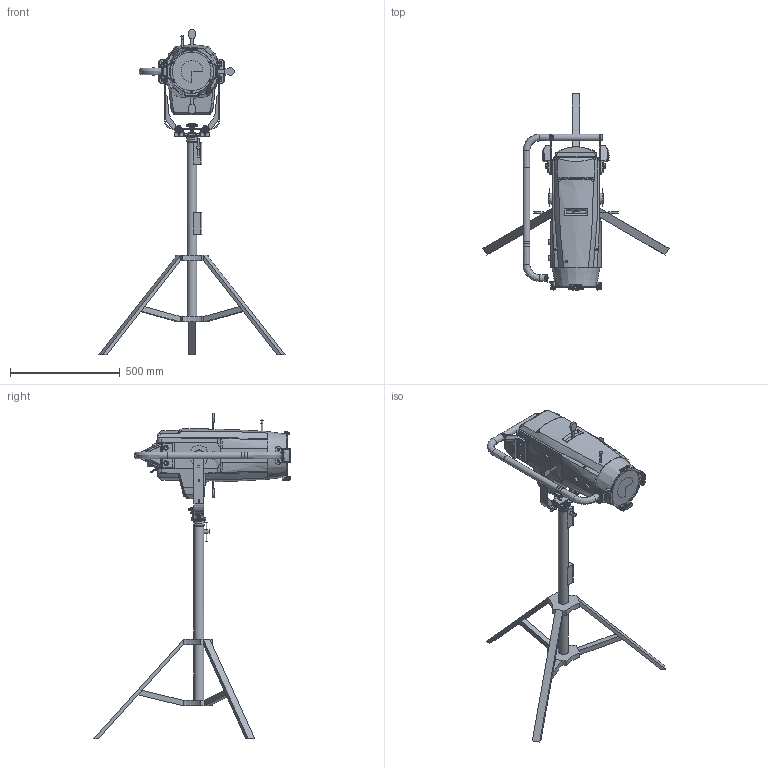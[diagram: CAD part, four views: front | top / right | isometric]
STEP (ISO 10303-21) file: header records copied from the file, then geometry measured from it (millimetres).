
FILE_DESCRIPTION(/* description */ ('Unknown'),/* implementation_level */ '2;1');
FILE_NAME(/* name */ '3D Robin T11 MFS ',/* time_stamp */ '2022-04-29T10:53:25+02:00',/* author */ ('Unknown'),/* organization */ ('Unknown'),/* preprocessor_version */ 'ST-DEVELOPER v18.1',/* originating_system */ 'Solid Edge',/* authorisation */ 'Unknown');
FILE_SCHEMA (('CONFIG_CONTROL_DESIGN'));
Length unit declared in the file: millimetre
Products named in the file (70): 3D Robin T11 MFS ; 1703xxxx Tripod; 3D Zjednodušený model T11; Robin T11; 99017388 Accessory frame adaptor LM T11; 17042454 Základna  FA LightMaster s maticemi; 11018206 Základna FA LightMaster; 18040004 Matice zálisná M4; 19020427 Slot FA; 18020067 Šr. køíž.samoøez zápustný BOSSARD 3,5x10 do plastu; 18010032 Šr.køíž.zápustný M3x8; 18060099 Trubkový nýt tažený 3x8-rovný; 17030815 Pružina tlaèná d0,8 x D5 x L13; 12050865 Vyrovnávací trubièka; 17030808 Pojistka frame; 12051367 Uchycení pojistky Frame T1; 99017515 Z嫛鮀 LightMaster T11; 17042458 Z嫛鮀 LightMaster T11 s maticemi; 11031092 Svaøenec závìsu LightMaster; 11018214 Z嫛鮀 LightMaster; 11018215 Výztuha závìsu LightMaster; 19020020 Krytka matice Camlock; 18060040 Nýt trhací zápustný 3,2x9,5 Al_Tl_5; 18060047 Matice CAMLOC 991R2-1AF; 11018055 Podložka závìsu; 99017389 Adaptor tripod T11; 12051700 Spigot D28 T11; 17010009 Ložisko 6905 2RS-Saibo; 12051702 Vymezovací kroužek; 12051701 Uložení Ložisek; 17030005 Pojistný kroužek na høidel è25; 18060288 Šroub CAMLOC 9+ s køidélkem; 18060287 Šroub CAMLOC 9+; 11010728-01 Køidelko CAMLOC 9; 11018213 Adaptor tripod T11; 11018211 Plech aretace; 17030135 Talíøová pružina 28; 18050086 Podložka 8,2 x 16 PA; 18010159 Šroub zápustný vnitøní šestihran M4x10; 11018212 Plech aretace spodní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
Assembly tree (116 placements, depth 5):
  3D Robin T11 MFS 
    1703xxxx Tripod
    3D Zjednodušený model T11
      Robin T11
    99017388 Accessory frame adaptor LM T11
      17042454 Základna  FA LightMaster s maticemi
        11018206 Základna FA LightMaster
        18040004 Matice zálisná M4  x2
      19020427 Slot FA  x3
      18020067 Šr. køíž.samoøez zápustný BOSSARD 3,5x10 do plastu  x6
      18010032 Šr.køíž.zápustný M3x8  x2
      18060099 Trubkový nýt tažený 3x8-rovný
      17030815 Pružina tlaèná d0,8 x D5 x L13
      12050865 Vyrovnávací trubièka
      17030808 Pojistka frame
      12051367 Uchycení pojistky Frame T1
    99017515 Z嫛鮀 LightMaster T11
      17042458 Z嫛鮀 LightMaster T11 s maticemi
        11031092 Svaøenec závìsu LightMaster
          11018214 Z嫛鮀 LightMaster
          11018215 Výztuha závìsu LightMaster  x2
        19020020 Krytka matice Camlock  x2
        18060040 Nýt trhací zápustný 3,2x9,5 Al_Tl_5  x4
        18060047 Matice CAMLOC 991R2-1AF  x2
      11018055 Podložka závìsu  x2
    99017389 Adaptor tripod T11
      12051700 Spigot D28 T11
      17010009 Ložisko 6905 2RS-Saibo  x2
      12051702 Vymezovací kroužek
      12051701 Uložení Ložisek
      17030005 Pojistný kroužek na høidel è25
      18060288 Šroub CAMLOC 9+ s køidélkem  x2
        18060287 Šroub CAMLOC 9+
        11010728-01 Køidelko CAMLOC 9
      11018213 Adaptor tripod T11
      11018211 Plech aretace
      17030135 Talíøová pružina 28  x6
      18050086 Podložka 8,2 x 16 PA  x2
      18010159 Šroub zápustný vnitøní šestihran M4x10  x8
      11018212 Plech aretace spodní
      19020029 ROBE Matice M8 
        18040040 Matice M8 zálisek
        19020027 ROBE Hlavice pro šroub a matici M8
      12010396 Distace SW12 L14xM8_M4
      17030152 Kolík 4x14 DIN1475  x2
    99017390 Madlo komplet
      11031093 Trubka Madla T11 svaøenec
        17031396 Trubka madla T11
        12051697 Kotvení madla
        17042455 Držák madla s maticemi
          11018207 Držák madla A
          18040009 Matice zálisná M6  x2
        12051704 Mezikus
      17042457 Kotvení pøední èásti s maticemi
        11018209 Kotvení pøední èásti
        18060058 Šroub M4 neztratitelný Tl_2  x2
      18010032 Šr.køíž.zápustný M3x8  x2
      17031062 Šroub M6x16 s plastovou hlavou úprava  x2
      19030576 Z疱a橲 MFS Handle T11
      17031389 Návlek madla L220I
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Bounding box: 848.88 x 897.22 x 1485.57 mm (x, y, z)
Volume: 36392632.1 mm3; surface area: 2068330.6 mm2
Topology: 124 solids, 125 shells, 3936 faces, 9572 edges, 5958 vertices
Faces by surface type: plane 1254, bspline 1054, cylinder 924, cone 394, torus 285, sphere 25
Full cylindrical faces by diameter (mm): 2 x9, 2.2 x1, 2.459 x6, 2.5 x1, 2.8 x6, 3 x6, 3.2 x8, 3.242 x11, 3.3 x10, 3.5 x6, 3.6 x4, 3.9 x1, 4 x24, 4.134 x10, 4.2 x4, 4.3 x20, 4.4 x1, 4.5 x1, 4.8 x4, 4.917 x1, 5 x20, 5.3 x8, 5.38 x2, 5.4 x2, 5.5 x4, 5.8 x2, 6 x11, 6.4 x2, 6.5 x2, 6.8 x1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
Entity records: 100984 total; most frequent: CARTESIAN_POINT 43580, ORIENTED_EDGE 11520, DIRECTION 9761, EDGE_CURVE 5760, AXIS2_PLACEMENT_3D 4001, VERTEX_POINT 3835, FACE_BOUND 3405, EDGE_LOOP 3385
